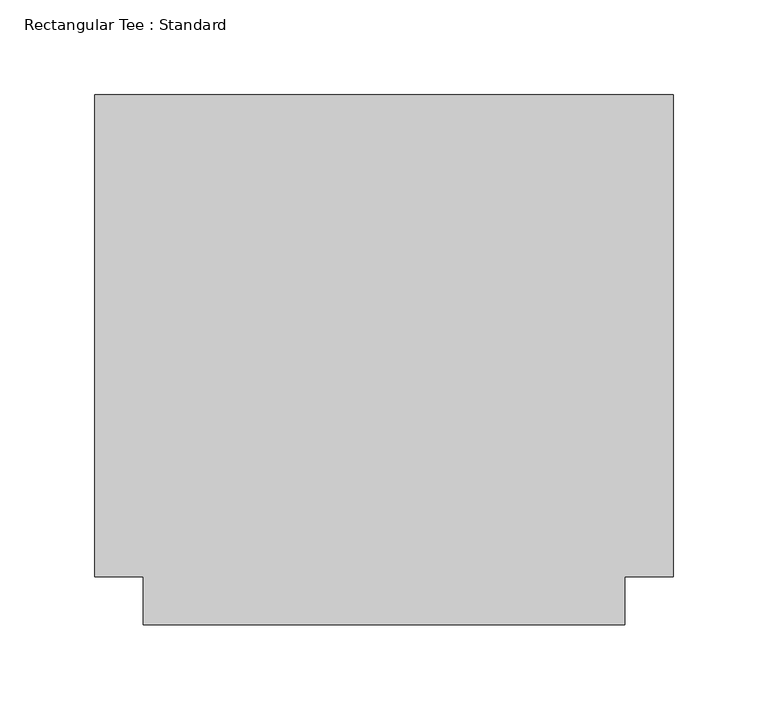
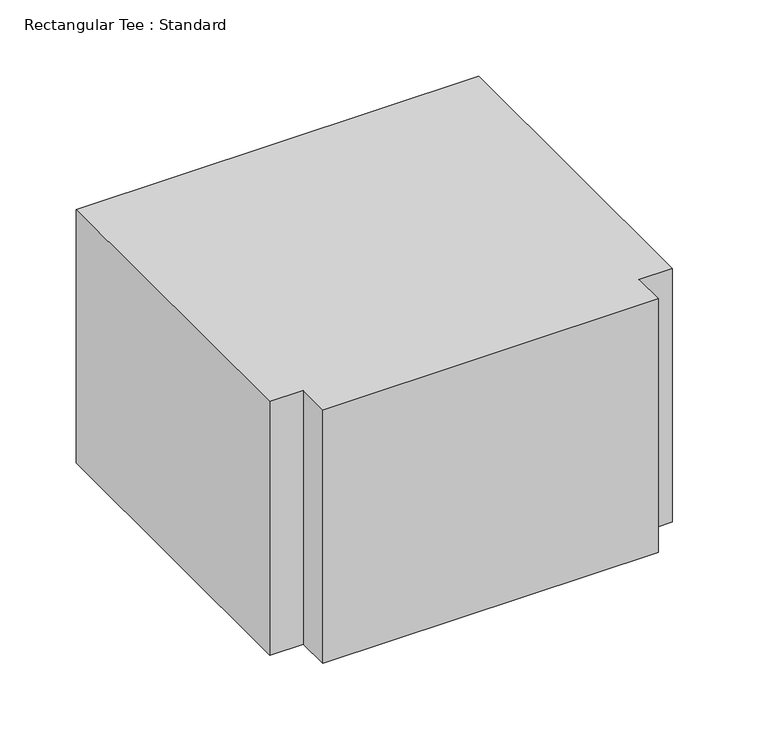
"""IFC4 building model written with IfcOpenShell, lengths in millimetres: duct fitting geometry, Rectangular Tee : Standard."""

from ifc_helpers import new_model, si_unit, frame, origin, place, context, project, spatial, polyline, outline, extrude, source, transform, mapped, element, save


def rectangular_tee_standard_b316833c(model_context):
    return source(origin(), model_context, "Body", "SweptSolid", [
        extrude(outline(polyline([(-152.4, -127.0), (-152.4, 127.0), (152.4, 127.0), (152.4, -127.0), (127.0, -127.0), (127.0, -152.4), (-127.0, -152.4), (-127.0, -127.0), (-152.4, -127.0)])), frame((0.0, 0.0, -101.6), z_axis=(0.0, 0.0, 1.0), x_axis=(1.0, 0.0, 0.0)), (0.0, 0.0, 1.0), 203.2),
    ])


if __name__ == "__main__":
    model = new_model("IFC4")
    model_context = context("Model", 3, world=origin())
    ifc_project = project(units=[si_unit("LENGTHUNIT", "METRE", prefix="MILLI")], contexts=[model_context])
    site = spatial("IfcSite", under=ifc_project)
    building = spatial("IfcBuilding", under=site)
    placement = place(None, origin())
    rectangular_tee_standard_shape = rectangular_tee_standard_b316833c(model_context)
    element("IfcDuctFitting", 1, ObjectType="Rectangular Tee : Standard", at=placement, inside=building, context=model_context, shape_type="MappedRepresentation", body=[
        mapped(rectangular_tee_standard_shape, transform((0.0, 0.0, 0.0), x_axis=(1.0, 0.0, 0.0), y_axis=(0.0, 1.0, 0.0), z_axis=(0.0, 0.0, 1.0))),
    ])
    save(model, "model.ifc")
